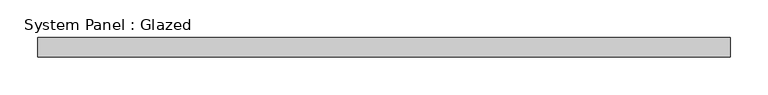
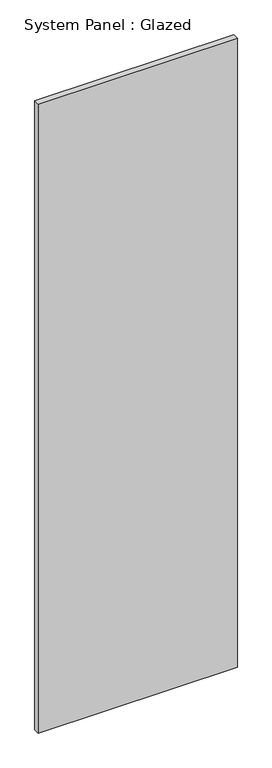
"""IFC4 building model written with IfcOpenShell, lengths in millimetres: plate geometry, System Panel : Glazed."""

from ifc_helpers import new_model, si_unit, origin, origin_with_axes, place, context, project, spatial, polyline, outline, extrude, source, transform, mapped, element, save


def system_panel_glazed_d77d1ebf(model_context):
    return source(origin(), model_context, "Body", "SweptSolid", [
        extrude(outline(polyline([(457.2, -44.45), (-457.2, -44.45), (-457.2, -19.05), (457.2, -19.05), (457.2, -44.45)])), origin_with_axes(), (0.0, 0.0, 1.0), 3048.0),
    ])


if __name__ == "__main__":
    model = new_model("IFC4")
    model_context = context("Model", 3, world=origin())
    ifc_project = project(units=[si_unit("LENGTHUNIT", "METRE", prefix="MILLI")], contexts=[model_context])
    site = spatial("IfcSite", under=ifc_project)
    building = spatial("IfcBuilding", under=site)
    placement = place(None, origin())
    system_panel_glazed_shape = system_panel_glazed_d77d1ebf(model_context)
    element("IfcPlate", 1, ObjectType="System Panel : Glazed", at=placement, inside=building, context=model_context, shape_type="MappedRepresentation", body=[
        mapped(system_panel_glazed_shape, transform((0.0, 0.0, 0.0), x_axis=(1.0, 0.0, 0.0), y_axis=(0.0, 1.0, 0.0), z_axis=(0.0, 0.0, 1.0))),
    ])
    save(model, "model.ifc")
